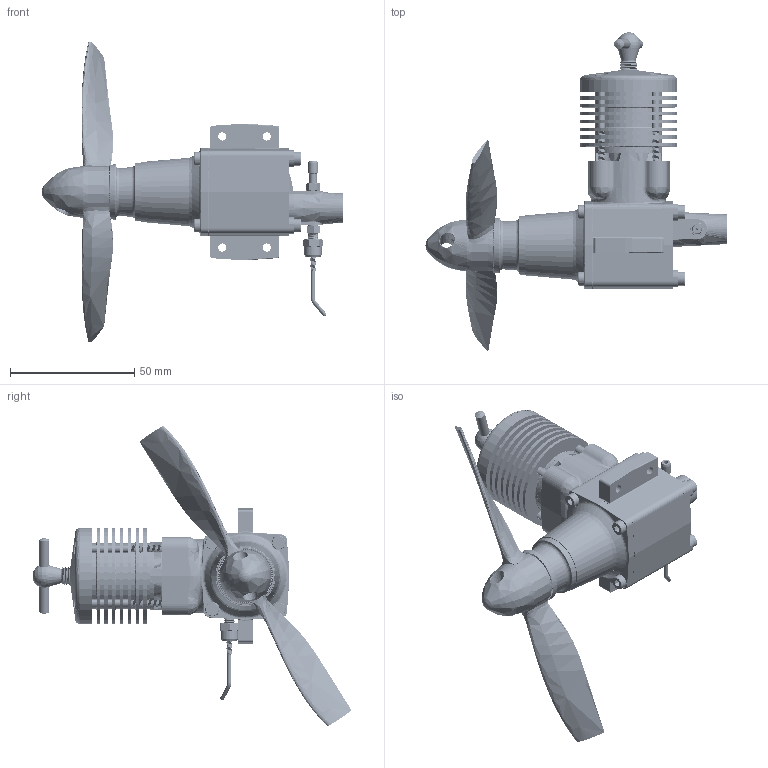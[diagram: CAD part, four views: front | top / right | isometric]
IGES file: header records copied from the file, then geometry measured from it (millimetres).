
Start section: SolidWorks IGES file using analytic representation for surfaces
Global section: file name: C:\Users\john\Documents\ETA DIESEL 5CC\PACK\ETA ENGINE ASSEMBLY.IGS; native system: SolidWorks 2014; preprocessor: SolidWorks 2014; author: john; date: 140910.173913; units: millimetre
Bounding box: 121.39 x 128.67 x 121.17 mm (x, y, z)
Surface area: 83678.3 mm2 (no closed solid volume)
Topology: 0 solids, 0 shells, 3110 faces, 52217 edges, 52140 vertices
Faces by surface type: revolution 1793, bspline 1317
